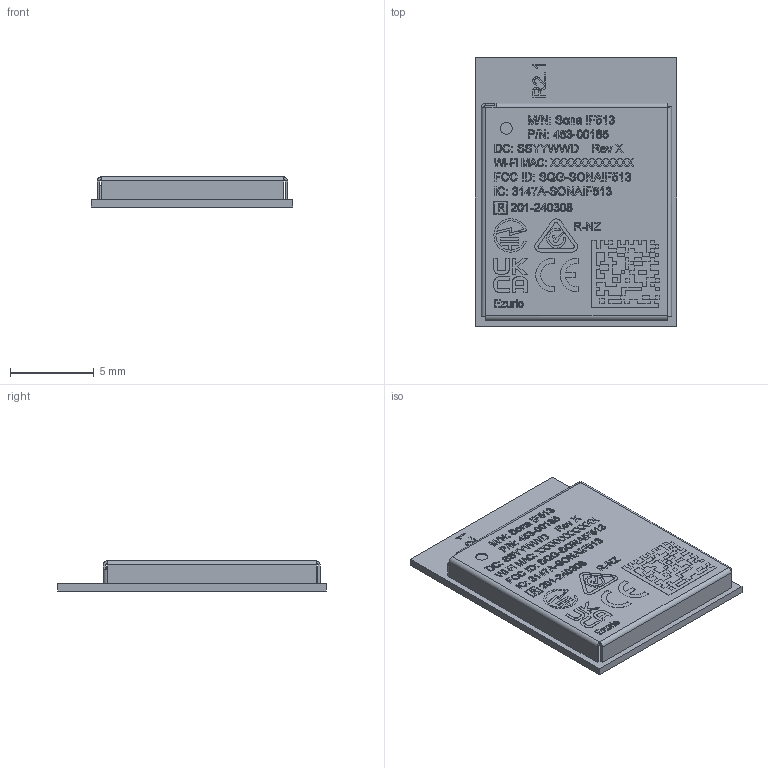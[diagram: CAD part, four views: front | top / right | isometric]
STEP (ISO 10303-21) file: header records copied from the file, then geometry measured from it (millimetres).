
FILE_DESCRIPTION (( 'STEP AP214' ), '1' );
FILE_NAME ('453-00185.STEP', '2026-05-25T09:45:32', ( '' ), ( '' ), 'SwSTEP 2.0', 'SolidWorks 2025', '' );
FILE_SCHEMA (( 'AUTOMOTIVE_DESIGN' ));
Length unit declared in the file: millimetre
Products named in the file (4): 453-00185; 750-03415-11103401_940-00307, Trace Pin; 110-00826_453-00185; 940-00307_Laser
Assembly tree (3 placements, depth 3):
  453-00185
    940-00307_Laser
      750-03415-11103401_940-00307, Trace Pin
      110-00826_453-00185
Bounding box: 12 x 16 x 1.82 mm (x, y, z)
Volume: 133.1 mm3; surface area: 1141.5 mm2
Topology: 305 solids, 305 shells, 4813 faces, 11529 edges, 7422 vertices
Faces by surface type: plane 3479, bspline 738, cylinder 460, sphere 136
Entity records: 224660 total; most frequent: CARTESIAN_POINT 63522, ORIENTED_EDGE 22786, DIRECTION 19021, EDGE_CURVE 11393, LINE 9017, VECTOR 9017, VERTEX_POINT 7422, EDGE_LOOP 5045
